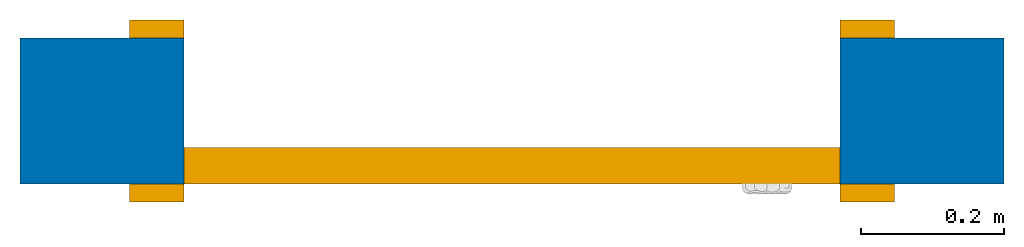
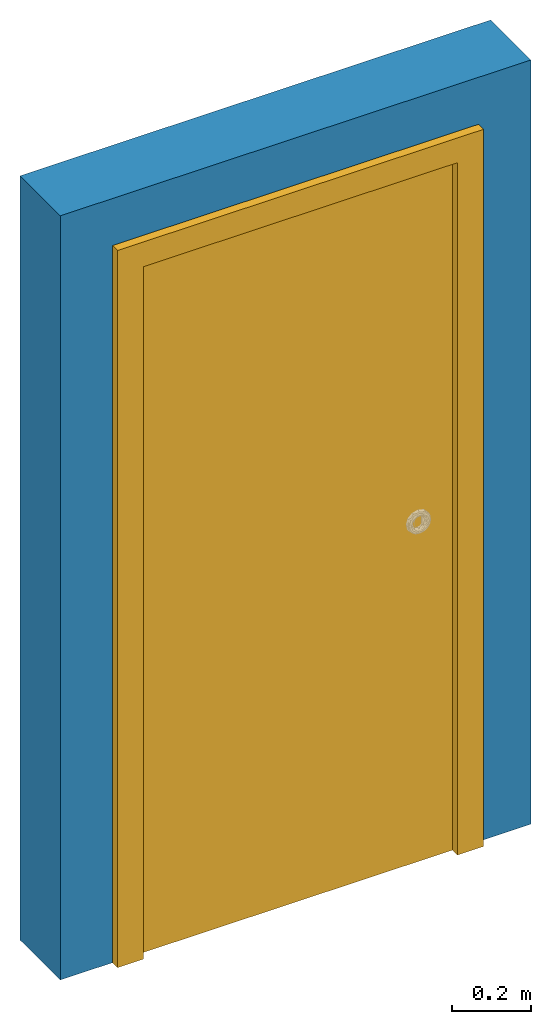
# One storey, part 1 of 2: 1 door, 1 wall, 1 opening.
"""IFC2X3 building model written with IfcOpenShell, lengths in feet."""

import ifcopenshell
import ifcopenshell.guid

model = None  # the IFC model being written
_history = None  # IfcOwnerHistory: only IFC2X3 demands one
_inside = {}  # id of a spatial element -> (the spatial element, [elements in it])
_under = {}  # id of a project, library or spatial element -> (it, [spatial elements below it])
_declared = {}  # id of a project -> (the project, [libraries it declares])
_typed = {}  # id of a type object -> (the type object, [elements of that type])
_made_of = {}  # id of a material, layer set ... -> (it, [elements and type objects made of it])


def new_model(schema):
    """Start an empty IFC model of exactly this schema.

    Asked for "IFC4X3", IfcOpenShell would pick the latest addendum, in which some entities
    have other attributes; the version numbers below select the first issue.
    IFC2X3 requires an IfcOwnerHistory on every rooted entity: one is made here for all.
    """
    global model, _history
    if schema == "IFC4X3":
        model = ifcopenshell.file(schema_version=(4, 3, 0, 0))
    else:
        model = ifcopenshell.file(schema=schema)
    _inside.clear()
    _under.clear()
    _declared.clear()
    _typed.clear()
    _made_of.clear()
    _history = None
    if model.schema == "IFC2X3":
        org = make("IfcOrganization", Name="unknown")
        user = make(
            "IfcPersonAndOrganization",
            ThePerson=make("IfcPerson", FamilyName="unknown"),
            TheOrganization=org,
        )
        app = make(
            "IfcApplication",
            ApplicationDeveloper=org,
            Version="unknown",
            ApplicationFullName="unknown",
            ApplicationIdentifier="unknown",
        )
        _history = make(
            "IfcOwnerHistory",
            OwningUser=user,
            OwningApplication=app,
            ChangeAction="ADDED",
            CreationDate=0,
        )
    return model


def make(cls, **values):
    """One entity of the class cls with the attributes given. An attribute that is None is left unset."""
    return model.create_entity(
        cls, **{name: value for name, value in values.items() if value is not None}
    )


def entity(cls, *values):
    """Any entity or typed value of the class cls, its attributes in the order of the schema. None: left unset."""
    e = model.create_entity(cls)
    for i, value in enumerate(values):
        if value is not None:
            e[i] = value
    return e


def rooted(cls, **values):
    """An entity with a GlobalId (a new one), such as an element, a storey or a relation."""
    return make(cls, GlobalId=ifcopenshell.guid.new(), OwnerHistory=_history, **values)


def si_unit(unit_type, name, prefix=None):
    """IfcSIUnit, for example si_unit("LENGTHUNIT", "METRE", prefix="MILLI")."""
    return make("IfcSIUnit", UnitType=unit_type, Prefix=prefix, Name=name)


def converted_unit(unit_type, name, factor, base, dimensions=None, offset=None):
    """IfcConversionBasedUnit, such as the inch: factor (a typed value) times the base unit."""
    return make(
        "IfcConversionBasedUnit"
        if offset is None
        else "IfcConversionBasedUnitWithOffset",
        ConversionOffset=offset,
        Dimensions=None
        if dimensions is None
        else entity("IfcDimensionalExponents", *dimensions),
        UnitType=unit_type,
        Name=name,
        ConversionFactor=make(
            "IfcMeasureWithUnit", ValueComponent=factor, UnitComponent=base
        ),
    )


def derived_unit(unit_type, elements):
    """IfcDerivedUnit: a product of units, each with its exponent."""
    return make(
        "IfcDerivedUnit",
        Elements=[
            make("IfcDerivedUnitElement", Unit=unit, Exponent=power)
            for unit, power in elements
        ],
        UnitType=unit_type,
    )


def assignment(units):
    """IfcUnitAssignment: the units of a project."""
    return None if units is None else make("IfcUnitAssignment", Units=units)


def point(xyz):
    """IfcCartesianPoint."""
    return None if xyz is None else make("IfcCartesianPoint", Coordinates=xyz)


def direction(xyz):
    """IfcDirection."""
    return None if xyz is None else make("IfcDirection", DirectionRatios=xyz)


def frame(location, z_axis=None, x_axis=None):
    """IfcAxis2Placement3D, a coordinate frame: its origin and axes. An axis left out is left unset."""
    return make(
        "IfcAxis2Placement3D",
        Location=point(location),
        Axis=direction(z_axis),
        RefDirection=direction(x_axis),
    )


def frame_2d(location, x_axis=None):
    """IfcAxis2Placement2D, a coordinate frame in the plane: its origin and x axis."""
    return make(
        "IfcAxis2Placement2D", Location=point(location), RefDirection=direction(x_axis)
    )


def origin():
    """The frame at (0, 0, 0) with its axes left unset."""
    return frame((0.0, 0.0, 0.0))


def place(relative_to, where):
    """IfcLocalPlacement: puts the frame where relative to a parent placement (None: the world)."""
    return make(
        "IfcLocalPlacement", PlacementRelTo=relative_to, RelativePlacement=where
    )


def context(
    kind, dimensions, precision=None, world=None, true_north=None, identifier=None
):
    """IfcGeometricRepresentationContext, for example the 3D "Model" context."""
    return make(
        "IfcGeometricRepresentationContext",
        ContextIdentifier=identifier,
        ContextType=kind,
        CoordinateSpaceDimension=dimensions,
        Precision=precision,
        WorldCoordinateSystem=world,
        TrueNorth=true_north,
    )


def subcontext(parent, identifier, kind, view, scale=None):
    """IfcGeometricRepresentationSubContext, for example "Body" below "Model"."""
    return make(
        "IfcGeometricRepresentationSubContext",
        ContextIdentifier=identifier,
        ContextType=kind,
        ParentContext=parent,
        TargetScale=scale,
        TargetView=view,
    )


def project(units=None, contexts=None):
    """IfcProject with its units and contexts."""
    return rooted(
        "IfcProject",
        Name="project",
        RepresentationContexts=contexts,
        UnitsInContext=assignment(units),
    )


def spatial(cls, under=None, at=None, **own):
    """A site, building, storey or space (cls), placed at a placement, below another one or the project."""
    s = rooted(cls, ObjectPlacement=at, **own)
    if under is not None:
        _under.setdefault(under.id(), (under, []))[1].append(s)
    return s


def polyline(points):
    """IfcPolyline through the points."""
    return make("IfcPolyline", Points=[point(p) for p in points])


def profile(cls, at=None, kind="AREA", **sizes):
    """A parametric profile (cls). Its sizes go by their IFC names, for example OverallWidth=200.0."""
    return make(cls, ProfileType=kind, Position=at, **sizes)


def rectangle(**sizes):
    """IfcRectangleProfileDef."""
    return profile("IfcRectangleProfileDef", **sizes)


def outline(outer, holes=None, kind="AREA"):
    """IfcArbitraryClosedProfileDef: a profile drawn as a closed curve; with holes, ...WithVoids."""
    if holes is None:
        return make("IfcArbitraryClosedProfileDef", ProfileType=kind, OuterCurve=outer)
    return make(
        "IfcArbitraryProfileDefWithVoids",
        ProfileType=kind,
        OuterCurve=outer,
        InnerCurves=holes,
    )


def extrude(swept, where, along, depth):
    """IfcExtrudedAreaSolid: the profile swept, set in the frame where, extruded along a direction by depth."""
    return make(
        "IfcExtrudedAreaSolid",
        SweptArea=swept,
        Position=where,
        ExtrudedDirection=direction(along),
        Depth=depth,
    )


def shape(context_of_items, identifier, shape_type, items):
    """IfcShapeRepresentation: the items that make up one representation, for example the "Body"."""
    return make(
        "IfcShapeRepresentation",
        ContextOfItems=context_of_items,
        RepresentationIdentifier=identifier,
        RepresentationType=shape_type,
        Items=items,
    )


def source(mapping_origin, context_of_items, identifier, shape_type, items):
    """IfcRepresentationMap: a shape defined once, which mapped items show again and again."""
    return make(
        "IfcRepresentationMap",
        MappingOrigin=mapping_origin,
        MappedRepresentation=shape(context_of_items, identifier, shape_type, items),
    )


def transform(
    local_origin,
    x_axis=None,
    y_axis=None,
    z_axis=None,
    scale=None,
    scale2=None,
    scale3=None,
    uniform=True,
):
    """IfcCartesianTransformationOperator3D, or its non-uniform kind. x_axis, y_axis, z_axis: its Axis1, 2, 3."""
    if uniform:
        return make(
            "IfcCartesianTransformationOperator3D",
            Axis1=direction(x_axis),
            Axis2=direction(y_axis),
            LocalOrigin=point(local_origin),
            Scale=scale,
            Axis3=direction(z_axis),
        )
    return make(
        "IfcCartesianTransformationOperator3DnonUniform",
        Axis1=direction(x_axis),
        Axis2=direction(y_axis),
        LocalOrigin=point(local_origin),
        Scale=scale,
        Axis3=direction(z_axis),
        Scale2=scale2,
        Scale3=scale3,
    )


def mapped(mapping_source, mapping_target):
    """IfcMappedItem: shows the shape of a source again, moved by a transform."""
    return make(
        "IfcMappedItem", MappingSource=mapping_source, MappingTarget=mapping_target
    )


def material(Name=None, Category=None):
    """IfcMaterial."""
    return make("IfcMaterial", Name=Name, Category=Category)


def material_list(materials):
    """IfcMaterialList."""
    return make("IfcMaterialList", Materials=materials)


def layer(
    of_material, thickness, ventilated=None, Name=None, Category=None, Priority=None
):
    """IfcMaterialLayer: one layer of a wall or slab, of a material (None: an air gap)."""
    return make(
        "IfcMaterialLayer",
        Material=of_material,
        LayerThickness=thickness,
        IsVentilated=ventilated,
        Name=Name,
        Category=Category,
        Priority=Priority,
    )


def layer_set(layers, Name=None):
    """IfcMaterialLayerSet."""
    return make("IfcMaterialLayerSet", MaterialLayers=layers, LayerSetName=Name)


def layer_usage(for_layer_set, set_direction, sense, offset, extent=None):
    """IfcMaterialLayerSetUsage: how a layer set lies in its element."""
    return make(
        "IfcMaterialLayerSetUsage",
        ForLayerSet=for_layer_set,
        LayerSetDirection=set_direction,
        DirectionSense=sense,
        OffsetFromReferenceLine=offset,
        ReferenceExtent=extent,
    )


def made_of(thing, what):
    """Note that an element or type object is made of a material, layer set ...; save() writes the relation."""
    if what is not None:
        _made_of.setdefault(what.id(), (what, []))[1].append(thing)
    return thing


def type_object(cls, material=None, **own):
    """A type object (cls), such as IfcWallType, which elements share."""
    return made_of(rooted(cls, **own), material)


def type_shapes(of_type, sources):
    """Give a type object the sources (RepresentationMaps) that its elements show as mapped items."""
    of_type.RepresentationMaps = sources


def element(
    cls,
    number,
    at=None,
    inside=None,
    cuts=None,
    type_object=None,
    material=None,
    context=None,
    identifier="Body",
    shape_type=None,
    held_by="IfcProductDefinitionShape",
    body=None,
    shapes=None,
    **own,
):
    """One element of the class cls, such as IfcWall. Its Tag is "e" and its number.

    at: its placement. inside: the storey or other place that contains it. cuts: it is an
    opening in that element (IfcRelVoidsElement). A single representation is given by context,
    identifier, shape_type and body (its items); several are given by shapes. held_by: the class
    of the entity that holds the representations. save() writes the other relations.
    """
    e = rooted(cls, Tag="e%d" % number, ObjectPlacement=at, **own)
    if body is not None:
        shapes = [shape(context, identifier, shape_type, body)]
    if shapes is not None:
        e.Representation = make(held_by, Representations=shapes)
    if inside is not None:
        _inside.setdefault(inside.id(), (inside, []))[1].append(e)
    if cuts is not None:
        rooted(
            "IfcRelVoidsElement", RelatingBuildingElement=cuts, RelatedOpeningElement=e
        )
    if type_object is not None:
        _typed.setdefault(type_object.id(), (type_object, []))[1].append(e)
    return made_of(e, material)


def fill(opening, filler):
    """IfcRelFillsElement: the door or window that sits in an opening."""
    return rooted(
        "IfcRelFillsElement",
        RelatingOpeningElement=opening,
        RelatedBuildingElement=filler,
    )


def aggregate(whole, parts):
    """IfcRelAggregates: a whole, such as a stair, and the parts it consists of."""
    return rooted("IfcRelAggregates", RelatingObject=whole, RelatedObjects=parts)


def save(model, path):
    """Write the relations noted so far, then the file.

    IfcRelAggregates (storeys below a building ...), IfcRelContainedInSpatialStructure (elements
    in a storey), IfcRelDefinesByType, IfcRelAssociatesMaterial and IfcRelDeclares: one each for
    every whole, place, type object, material and project.
    """
    for whole, parts in _under.values():
        aggregate(whole, parts)
    for where, things in _inside.values():
        rooted(
            "IfcRelContainedInSpatialStructure",
            RelatedElements=things,
            RelatingStructure=where,
        )
    for kind, things in _typed.values():
        rooted("IfcRelDefinesByType", RelatedObjects=things, RelatingType=kind)
    for what, things in _made_of.values():
        rooted("IfcRelAssociatesMaterial", RelatedObjects=things, RelatingMaterial=what)
    for by, libraries in _declared.values():
        rooted("IfcRelDeclares", RelatingContext=by, RelatedDefinitions=libraries)
    model.write(path)


model = new_model("IFC2X3")

# Units and contexts
model_context = context("Model", 3, precision=0.0001, world=origin(), true_north=direction((6.12303176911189e-17, 1.0)))
body_context = subcontext(model_context, "Body", "Model", "MODEL_VIEW")
ifc_project = project(units=[converted_unit("LENGTHUNIT", "FOOT", entity("IfcRatioMeasure", 0.3048), si_unit("LENGTHUNIT", "METRE"), dimensions=[1, 0, 0, 0, 0, 0, 0]), converted_unit("AREAUNIT", "SQUARE FOOT", entity("IfcRatioMeasure", 0.09290304), si_unit("AREAUNIT", "SQUARE_METRE"), dimensions=[2, 0, 0, 0, 0, 0, 0]), converted_unit("VOLUMEUNIT", "CUBIC FOOT", entity("IfcRatioMeasure", 0.028316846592), si_unit("VOLUMEUNIT", "CUBIC_METRE"), dimensions=[3, 0, 0, 0, 0, 0, 0]), converted_unit("PLANEANGLEUNIT", "DEGREE", entity("IfcRatioMeasure", 0.0174532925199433), si_unit("PLANEANGLEUNIT", "RADIAN"), dimensions=[0, 0, 0, 0, 0, 0, 0]), si_unit("MASSUNIT", "GRAM", prefix="KILO"), derived_unit("MASSDENSITYUNIT", [(si_unit("MASSUNIT", "GRAM", prefix="KILO"), 1), (si_unit("LENGTHUNIT", "METRE"), -3)]), si_unit("TIMEUNIT", "SECOND"), si_unit("FREQUENCYUNIT", "HERTZ"), si_unit("THERMODYNAMICTEMPERATUREUNIT", "DEGREE_CELSIUS"), derived_unit("THERMALTRANSMITTANCEUNIT", [(si_unit("MASSUNIT", "GRAM", prefix="KILO"), 1), (si_unit("THERMODYNAMICTEMPERATUREUNIT", "KELVIN"), -1), (si_unit("TIMEUNIT", "SECOND"), -3)]), derived_unit("VOLUMETRICFLOWRATEUNIT", [(si_unit("LENGTHUNIT", "METRE"), 3), (si_unit("TIMEUNIT", "SECOND"), -1)]), si_unit("ELECTRICCURRENTUNIT", "AMPERE"), si_unit("ELECTRICVOLTAGEUNIT", "VOLT"), si_unit("POWERUNIT", "WATT"), si_unit("FORCEUNIT", "NEWTON"), si_unit("ILLUMINANCEUNIT", "LUX"), si_unit("LUMINOUSFLUXUNIT", "LUMEN"), si_unit("LUMINOUSINTENSITYUNIT", "CANDELA"), derived_unit("USERDEFINED", [(si_unit("MASSUNIT", "GRAM", prefix="KILO"), -1), (si_unit("LENGTHUNIT", "METRE"), -2), (si_unit("TIMEUNIT", "SECOND"), 3), (si_unit("LUMINOUSFLUXUNIT", "LUMEN"), 1)]), derived_unit("LINEARVELOCITYUNIT", [(si_unit("LENGTHUNIT", "METRE"), 1), (si_unit("TIMEUNIT", "SECOND"), -1)]), si_unit("PRESSUREUNIT", "PASCAL"), derived_unit("USERDEFINED", [(si_unit("LENGTHUNIT", "METRE"), -2), (si_unit("MASSUNIT", "GRAM", prefix="KILO"), 1), (si_unit("TIMEUNIT", "SECOND"), -2)])], contexts=[model_context])

# Site, building, storey
site_placement = place(None, origin())
site = spatial("IfcSite", under=ifc_project, at=site_placement, Name="Default", CompositionType="ELEMENT")
building_placement = place(site_placement, origin())
building = spatial("IfcBuilding", under=site, at=building_placement, CompositionType="ELEMENT")
storey_placement = place(building_placement, origin())
storey = spatial("IfcBuildingStorey", under=building, at=storey_placement, Name="Level 1", CompositionType="ELEMENT", Elevation=0.0)

# Wall, opening, door
ifc_material_1 = material(Name="Default Wall")
ifc_layer = layer(ifc_material_1, 0.666666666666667)
ifc_layer_set = layer_set([ifc_layer], Name="Basic Wall:Generic - 8\"")
ifc_layer_usage = layer_usage(ifc_layer_set, "AXIS2", "NEGATIVE", 0.333333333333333)
wall_type = type_object("IfcWallType", Name="Basic Wall:Generic - 8\"", PredefinedType="STANDARD", material=ifc_layer_set)
wall_placement = place(storey_placement, frame((-3.91248202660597, 7.1745309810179, 0.0)))
wall = element("IfcWallStandardCase", 1, at=wall_placement, inside=storey, type_object=wall_type, material=ifc_layer_usage, Name="Basic Wall:Generic - 8\"", ObjectType="Basic Wall:Generic - 8\"", context=body_context, shape_type="SweptSolid", body=[
    extrude(rectangle(XDim=4.5, YDim=0.666666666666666, at=frame_2d((2.25, 1.94289029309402e-16), x_axis=(-1.0, 0.0))), origin(), (0.0, 0.0, 1.0), 7.72528447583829),
])
opening_placement = place(wall_placement, frame((3.75, 0.333333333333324, 0.0)))
opening = element("IfcOpeningElement", 2, at=opening_placement, cuts=wall, Name="Single-Flush:36\" x 84\":1", ObjectType="Opening", context=body_context, shape_type="SweptSolid", body=[
    extrude(rectangle(XDim=3.0, YDim=7.0, at=frame_2d((3.5, 1.5), x_axis=(0.0, 1.0))), frame((0.0, 0.0, 0.0), z_axis=(0.0, -1.0, 0.0), x_axis=(0.0, 0.0, 1.0)), (0.0, 0.0, 1.0), 0.666666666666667),
])
ifc_material_2 = material(Name="Door - Frame")
ifc_material_3 = material(Name="Door - Panel")
ifc_material_list_1 = material_list([ifc_material_2, ifc_material_3])
ifc_material_list_2 = material_list([ifc_material_2, ifc_material_3])
door_style = type_object("IfcDoorStyle", Name="36\" x 84\"", ConstructionType="NOTDEFINED", OperationType="SINGLE_SWING_RIGHT", ParameterTakesPrecedence=False, Sizeable=False, material=ifc_material_list_2)
shared_shape = source(origin(), body_context, "Body", "SweptSolid", [
    extrude(outline(polyline([(-1.75, -3.6875), (1.75, -3.6875), (1.75, 3.5625), (1.5, 3.5625), (1.5, -3.43750000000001), (-1.5, -3.43750000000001), (-1.5, 3.5625), (-1.75, 3.5625), (-1.75, -3.6875)])), frame((1.5, 0.666666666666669, 3.5625), z_axis=(0.0, 1.0, 0.0), x_axis=(1.0, 0.0, 0.0)), (0.0, 0.0, 1.0), 0.0833333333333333),
    extrude(outline(polyline([(-3.6875, -1.74999999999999), (3.5625, -1.74999999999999), (3.5625, -1.50000000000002), (-3.4375, -1.50000000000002), (-3.4375, 1.50000000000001), (3.5625, 1.50000000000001), (3.5625, 1.75000000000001), (-3.6875, 1.75000000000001), (-3.6875, -1.74999999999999)])), frame((1.50000000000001, -0.0833333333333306, 3.5625), z_axis=(0.0, 1.0, 0.0), x_axis=(0.0, 0.0, -1.0)), (0.0, 0.0, 1.0), 0.0833333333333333),
    extrude(rectangle(XDim=0.166666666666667, YDim=3.0, at=frame_2d((-1.38777878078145e-17, 0.0), x_axis=(1.0, 0.0))), frame((1.5, 0.583333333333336, 0.0), z_axis=(0.0, 0.0, 1.0), x_axis=(0.0, 1.0, 0.0)), (0.0, 0.0, 1.0), 7.0),
])
type_shapes(door_style, [shared_shape])
door_placement = place(opening_placement, frame((0.0, 0.0, 0.0), z_axis=(0.0, 0.0, 1.0), x_axis=(-1.0, 0.0, 0.0)))
door = element("IfcDoor", 3, at=door_placement, inside=storey, type_object=door_style, material=ifc_material_list_1, Name="Single-Flush:36\" x 84\"", ObjectType="Single-Flush:36\" x 84\"", OverallHeight=7.0, OverallWidth=3.0, context=body_context, shape_type="MappedRepresentation", body=[
    mapped(shared_shape, transform((0.0, 0.0, 0.0), scale=1.0)),
])
fill(opening, door)

save(model, "model.ifc")
